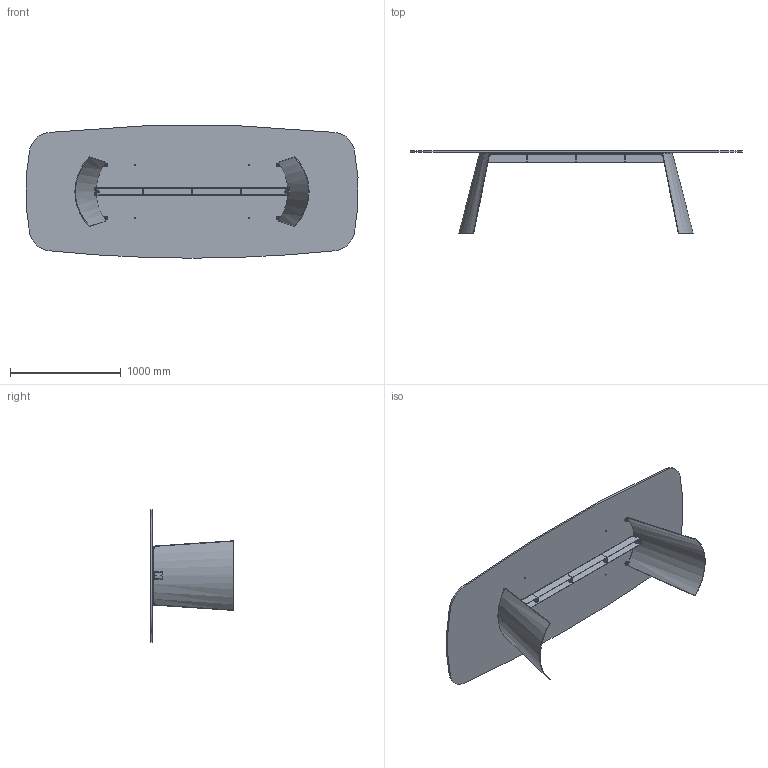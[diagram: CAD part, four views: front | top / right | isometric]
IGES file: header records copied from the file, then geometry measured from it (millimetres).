
Start section: SolidWorks IGES file using analytic representation for surfaces
Global section: file name: Y:\eforma\TECNICO\SOLIDWORKS\E-FORMA\1-TAVOLI\DORIAN\02 parts-rev 01\DN44G.IGS; native system: SolidWorks 2022; preprocessor: SolidWorks 2022; author: eforma.tech; date: 240807.171355; units: millimetre
Bounding box: 2991.72 x 745 x 1192.61 mm (x, y, z)
Volume: 56468749.7 mm3; surface area: 9615500.5 mm2
Topology: 47 solids, 47 shells, 619 faces, 1447 edges, 922 vertices
Faces by surface type: revolution 339, plane 262, bspline 18
